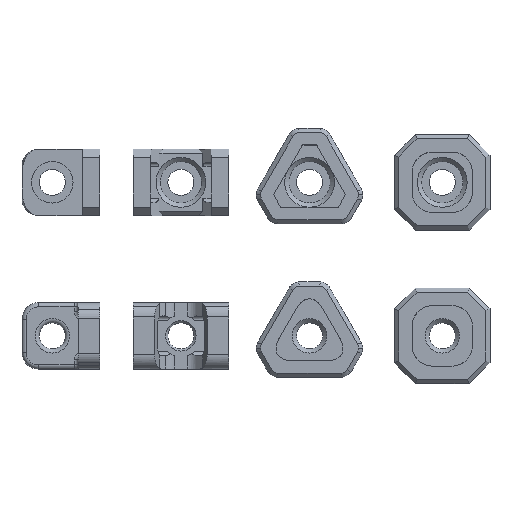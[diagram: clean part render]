
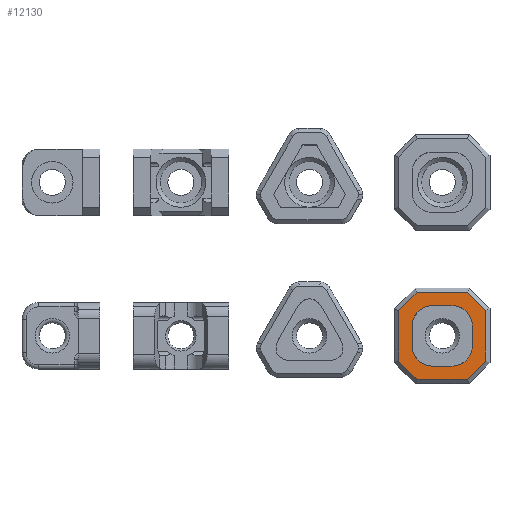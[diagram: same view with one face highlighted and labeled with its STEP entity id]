
A CAD part, top view. The second image highlights one B-rep face of the part: STEP entity #12130.
In plain terms, the highlighted planar face has unit normal (0, 0, 1).
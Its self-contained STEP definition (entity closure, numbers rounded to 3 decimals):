
#11142=CARTESIAN_POINT('',(29.7,-29.7,2.5));
#11143=VERTEX_POINT('',#11142);
#11150=CARTESIAN_POINT('',(24.7,-34.7,2.5));
#11151=VERTEX_POINT('',#11150);
#11152=CARTESIAN_POINT('',(29.7,-34.7,2.5));
#11153=DIRECTION('',(0.,-0.,-1.));
#11154=DIRECTION('',(-1.,0.,-0.));
#11155=AXIS2_PLACEMENT_3D('',#11152,#11153,#11154);
#11156=CIRCLE('',#11155,5.);
#11157=EDGE_CURVE('',#11151,#11143,#11156,.T.);
#11272=CARTESIAN_POINT('',(24.7,-39.3,2.5));
#11273=VERTEX_POINT('',#11272);
#11280=CARTESIAN_POINT('',(29.7,-44.3,2.5));
#11281=VERTEX_POINT('',#11280);
#11282=CARTESIAN_POINT('',(29.7,-39.3,2.5));
#11283=DIRECTION('',(-0.,0.,1.));
#11284=DIRECTION('',(-1.,-0.,-0.));
#11285=AXIS2_PLACEMENT_3D('',#11282,#11283,#11284);
#11286=CIRCLE('',#11285,5.);
#11287=EDGE_CURVE('',#11273,#11281,#11286,.T.);
#11408=CARTESIAN_POINT('',(34.3,-44.3,2.5));
#11409=VERTEX_POINT('',#11408);
#11416=CARTESIAN_POINT('',(39.3,-39.3,2.5));
#11417=VERTEX_POINT('',#11416);
#11418=CARTESIAN_POINT('',(34.3,-39.3,2.5));
#11419=DIRECTION('',(0.,-0.,-1.));
#11420=DIRECTION('',(1.,0.,0.));
#11421=AXIS2_PLACEMENT_3D('',#11418,#11419,#11420);
#11422=CIRCLE('',#11421,5.);
#11423=EDGE_CURVE('',#11417,#11409,#11422,.T.);
#11981=CARTESIAN_POINT('',(29.7,-44.3,2.5));
#11982=DIRECTION('',(1.,-0.,0.));
#11983=VECTOR('',#11982,4.6);
#11984=LINE('',#11981,#11983);
#11985=EDGE_CURVE('',#11281,#11409,#11984,.T.);
#12024=CARTESIAN_POINT('',(32.,-37.,2.5));
#12025=DIRECTION('',(0.,0.,-1.));
#12026=DIRECTION('',(1.,0.,0.));
#12027=AXIS2_PLACEMENT_3D('',#12024,#12025,#12026);
#12028=PLANE('',#12027);
#12029=CARTESIAN_POINT('',(42.5,-43.086,2.5));
#12030=VERTEX_POINT('',#12029);
#12031=CARTESIAN_POINT('',(42.5,-30.914,2.5));
#12032=VERTEX_POINT('',#12031);
#12033=CARTESIAN_POINT('',(42.5,-43.086,2.5));
#12034=DIRECTION('',(-0.,1.,0.));
#12035=VECTOR('',#12034,12.172);
#12036=LINE('',#12033,#12035);
#12037=EDGE_CURVE('',#12030,#12032,#12036,.T.);
#12038=ORIENTED_EDGE('',*,*,#12037,.T.);
#12039=CARTESIAN_POINT('',(38.086,-26.5,2.5));
#12040=VERTEX_POINT('',#12039);
#12041=CARTESIAN_POINT('',(38.086,-26.5,2.5));
#12042=DIRECTION('',(0.707,-0.707,0.));
#12043=VECTOR('',#12042,6.243);
#12044=LINE('',#12041,#12043);
#12045=EDGE_CURVE('',#12040,#12032,#12044,.T.);
#12046=ORIENTED_EDGE('',*,*,#12045,.F.);
#12047=CARTESIAN_POINT('',(25.914,-26.5,2.5));
#12048=VERTEX_POINT('',#12047);
#12049=CARTESIAN_POINT('',(25.914,-26.5,2.5));
#12050=DIRECTION('',(1.,0.,0.));
#12051=VECTOR('',#12050,12.172);
#12052=LINE('',#12049,#12051);
#12053=EDGE_CURVE('',#12048,#12040,#12052,.T.);
#12054=ORIENTED_EDGE('',*,*,#12053,.F.);
#12055=CARTESIAN_POINT('',(21.5,-30.914,2.5));
#12056=VERTEX_POINT('',#12055);
#12057=CARTESIAN_POINT('',(25.914,-26.5,2.5));
#12058=DIRECTION('',(-0.707,-0.707,0.));
#12059=VECTOR('',#12058,6.243);
#12060=LINE('',#12057,#12059);
#12061=EDGE_CURVE('',#12048,#12056,#12060,.T.);
#12062=ORIENTED_EDGE('',*,*,#12061,.T.);
#12063=CARTESIAN_POINT('',(21.5,-43.086,2.5));
#12064=VERTEX_POINT('',#12063);
#12065=CARTESIAN_POINT('',(21.5,-43.086,2.5));
#12066=DIRECTION('',(0.,1.,0.));
#12067=VECTOR('',#12066,12.172);
#12068=LINE('',#12065,#12067);
#12069=EDGE_CURVE('',#12064,#12056,#12068,.T.);
#12070=ORIENTED_EDGE('',*,*,#12069,.F.);
#12071=CARTESIAN_POINT('',(25.914,-47.5,2.5));
#12072=VERTEX_POINT('',#12071);
#12073=CARTESIAN_POINT('',(25.914,-47.5,2.5));
#12074=DIRECTION('',(-0.707,0.707,0.));
#12075=VECTOR('',#12074,6.243);
#12076=LINE('',#12073,#12075);
#12077=EDGE_CURVE('',#12072,#12064,#12076,.T.);
#12078=ORIENTED_EDGE('',*,*,#12077,.F.);
#12079=CARTESIAN_POINT('',(38.086,-47.5,2.5));
#12080=VERTEX_POINT('',#12079);
#12081=CARTESIAN_POINT('',(25.914,-47.5,2.5));
#12082=DIRECTION('',(1.,-0.,0.));
#12083=VECTOR('',#12082,12.172);
#12084=LINE('',#12081,#12083);
#12085=EDGE_CURVE('',#12072,#12080,#12084,.T.);
#12086=ORIENTED_EDGE('',*,*,#12085,.T.);
#12087=CARTESIAN_POINT('',(38.086,-47.5,2.5));
#12088=DIRECTION('',(0.707,0.707,0.));
#12089=VECTOR('',#12088,6.243);
#12090=LINE('',#12087,#12089);
#12091=EDGE_CURVE('',#12080,#12030,#12090,.T.);
#12092=ORIENTED_EDGE('',*,*,#12091,.T.);
#12093=EDGE_LOOP('',(#12038,#12046,#12054,#12062,#12070,#12078,#12086,#12092));
#12094=FACE_BOUND('',#12093,.T.);
#12095=CARTESIAN_POINT('',(39.3,-34.7,2.5));
#12096=VERTEX_POINT('',#12095);
#12097=CARTESIAN_POINT('',(34.3,-29.7,2.5));
#12098=VERTEX_POINT('',#12097);
#12099=CARTESIAN_POINT('',(34.3,-34.7,2.5));
#12100=DIRECTION('',(-0.,0.,1.));
#12101=DIRECTION('',(1.,0.,0.));
#12102=AXIS2_PLACEMENT_3D('',#12099,#12100,#12101);
#12103=CIRCLE('',#12102,5.);
#12104=EDGE_CURVE('',#12096,#12098,#12103,.T.);
#12105=ORIENTED_EDGE('',*,*,#12104,.F.);
#12106=CARTESIAN_POINT('',(39.3,-34.7,2.5));
#12107=DIRECTION('',(0.,-1.,0.));
#12108=VECTOR('',#12107,4.6);
#12109=LINE('',#12106,#12108);
#12110=EDGE_CURVE('',#12096,#11417,#12109,.T.);
#12111=ORIENTED_EDGE('',*,*,#12110,.T.);
#12112=ORIENTED_EDGE('',*,*,#11423,.T.);
#12113=ORIENTED_EDGE('',*,*,#11985,.F.);
#12114=ORIENTED_EDGE('',*,*,#11287,.F.);
#12115=CARTESIAN_POINT('',(24.7,-34.7,2.5));
#12116=DIRECTION('',(0.,-1.,0.));
#12117=VECTOR('',#12116,4.6);
#12118=LINE('',#12115,#12117);
#12119=EDGE_CURVE('',#11151,#11273,#12118,.T.);
#12120=ORIENTED_EDGE('',*,*,#12119,.F.);
#12121=ORIENTED_EDGE('',*,*,#11157,.T.);
#12122=CARTESIAN_POINT('',(29.7,-29.7,2.5));
#12123=DIRECTION('',(1.,0.,0.));
#12124=VECTOR('',#12123,4.6);
#12125=LINE('',#12122,#12124);
#12126=EDGE_CURVE('',#11143,#12098,#12125,.T.);
#12127=ORIENTED_EDGE('',*,*,#12126,.T.);
#12128=EDGE_LOOP('',(#12105,#12111,#12112,#12113,#12114,#12120,#12121,#12127));
#12129=FACE_BOUND('',#12128,.T.);
#12130=ADVANCED_FACE('',(#12094,#12129),#12028,.F.);
